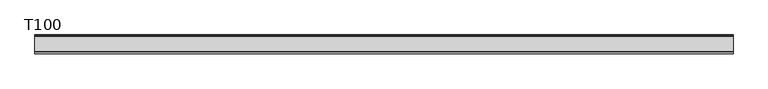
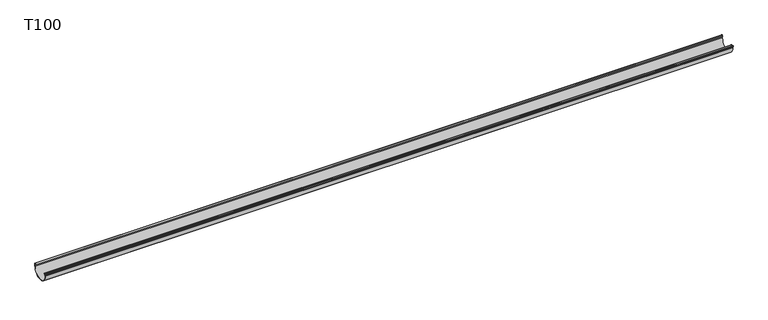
"""IFC4 building model written with IfcOpenShell, lengths in millimetres: proxy geometry, GROVIK_Gutter_Straight : T100."""

from ifc_helpers import new_model, si_unit, point, frame, frame_2d, origin, place, context, project, spatial, polyline, circle_curve, trimmed, segment, composite_curve, outline, extrude, source, transform, mapped, element, save


def t100_445f57c7(model_context):
    return source(origin(), model_context, "Body", "SweptSolid", [
        extrude(outline(composite_curve([segment(polyline([(95.6785725, 12.9222473), (94.8220658, 3.1323306), (104.7816977, 1.3761787), (105.2998033, 7.2981526), (98.3413035, 6.0711814), (98.1850202, 6.9575084), (105.0151773, 8.1618494)]), True, "CONTINUOUS"), segment(trimmed(circle_curve(frame_2d((105.1888255, 7.1770416)), 1.0), [point((105.0151773, 8.1618494))], [point((106.1850202, 7.0898858))], False, "CARTESIAN"), True, "CONTINUOUS"), segment(polyline([(106.1850202, 7.0898858), (105.6885136, 1.4147892)]), True, "CONTINUOUS"), segment(trimmed(circle_curve(frame_2d((104.6923189, 1.501945)), 1.0), [point((105.6885136, 1.4147892))], [point((104.6051631, 0.5057503))], False, "CARTESIAN"), True, "CONTINUOUS"), segment(polyline([(104.6051631, 0.5057503), (94.7570856, 2.242232)]), True, "CONTINUOUS"), segment(trimmed(circle_curve(frame_2d((94.9307338, 3.2270397)), 1.0), [point((94.7570856, 2.242232))], [point((93.9345391, 3.3141955))], False, "CARTESIAN"), True, "CONTINUOUS"), segment(polyline([(93.9345391, 3.3141955), (94.7746841, 12.9170968)]), True, "CONTINUOUS"), segment(trimmed(circle_curve(frame_2d((95.683723, 12.9170968)), 0.909039), [point((94.7746841, 12.9170968))], [point((95.683723, 13.8261357))], False, "CARTESIAN"), True, "CONTINUOUS"), segment(polyline([(95.683723, 13.8261357), (100.9, 14.2825008), (100.9, 16.3578028)]), True, "CONTINUOUS"), segment(trimmed(circle_curve(frame_2d((50.9, 16.3578028)), 50.0), [point((100.9, 16.3578028))], [point((0.9, 16.3578028))], True, "CARTESIAN"), True, "CONTINUOUS"), segment(polyline([(0.9, 16.3578028), (0.9, 1.3578028), (5.6494755, 5.343086), (6.2279844, 4.6536459), (0.8213938, 0.1169778)]), True, "CONTINUOUS"), segment(trimmed(circle_curve(frame_2d((0.5, 0.5000001)), 0.5), [point((0.8213938, 0.1169778))], [point((0.0, 0.5000001))], False, "CARTESIAN"), True, "CONTINUOUS"), segment(polyline([(0.0, 0.5000001), (0.0, 16.3578028)]), True, "CONTINUOUS"), segment(trimmed(circle_curve(frame_2d((50.9, 16.3578028)), 50.9), [point((0.0, 16.3578028))], [point((101.8, 16.3578028))], False, "CARTESIAN"), True, "CONTINUOUS"), segment(polyline([(101.8, 16.3578028), (101.8, 14.374134)]), True, "CONTINUOUS"), segment(trimmed(circle_curve(frame_2d((100.8, 14.374134)), 1.0), [point((101.8, 14.374134))], [point((100.8871557, 13.3779393))], False, "CARTESIAN"), True, "CONTINUOUS"), segment(polyline([(100.8871557, 13.3779393), (95.6785725, 12.9222473)]), True, "CONTINUOUS")], self_intersect=False)), frame((45.0, 0.0, 0.0), z_axis=(0.999999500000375, 0.0, 0.000999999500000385), x_axis=(0.0, -1.0, 0.0)), (0.0, 0.0, 1.0), 3918.7125703),
    ])


if __name__ == "__main__":
    model = new_model("IFC4")
    model_context = context("Model", 3, world=origin())
    ifc_project = project(units=[si_unit("LENGTHUNIT", "METRE", prefix="MILLI")], contexts=[model_context])
    site = spatial("IfcSite", under=ifc_project)
    building = spatial("IfcBuilding", under=site)
    placement = place(None, origin())
    t100_shape = t100_445f57c7(model_context)
    element("IfcBuildingElementProxy", 1, Name="GROVIK_Gutter_Straight : T100", ObjectType="GROVIK_Gutter_Straight : T100", at=placement, inside=building, context=model_context, shape_type="MappedRepresentation", body=[
        mapped(t100_shape, transform((0.0, 0.0, 0.0), x_axis=(1.0, 0.0, 0.0), y_axis=(0.0, 1.0, 0.0), z_axis=(0.0, 0.0, 1.0))),
    ])
    save(model, "model.ifc")
